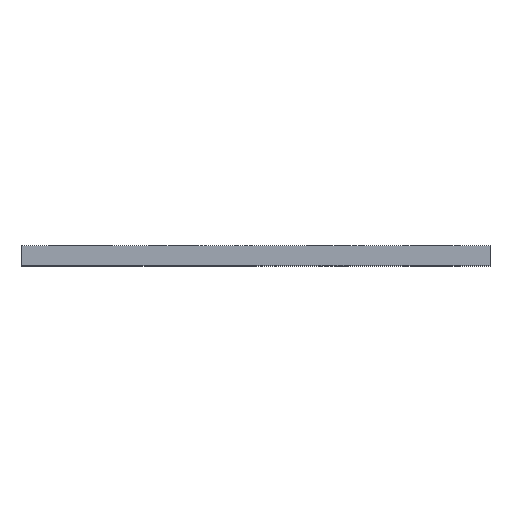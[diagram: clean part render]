
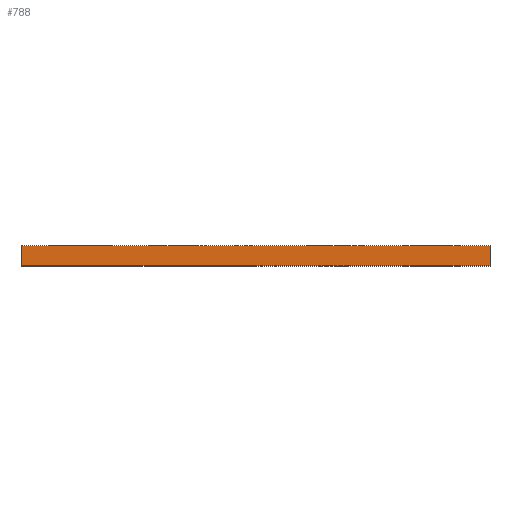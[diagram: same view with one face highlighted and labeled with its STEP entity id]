
A CAD part, top view. The second image highlights one B-rep face of the part: STEP entity #788.
In plain terms, the highlighted planar face has unit normal (0, 0, 1).
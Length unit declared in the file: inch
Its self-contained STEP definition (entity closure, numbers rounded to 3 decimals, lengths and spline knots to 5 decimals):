
#42=DIRECTION('',(-1.,0.,0.));
#43=VECTOR('',#42,3.);
#44=CARTESIAN_POINT('',(0.,0.,0.));
#45=LINE('',#44,#43);
#150=DIRECTION('',(0.,-1.,0.));
#151=VECTOR('',#150,0.125);
#152=CARTESIAN_POINT('',(0.,0.,0.));
#153=LINE('',#152,#151);
#162=DIRECTION('',(0.,-1.,0.));
#163=VECTOR('',#162,0.125);
#164=CARTESIAN_POINT('',(-3.,0.,0.));
#165=LINE('',#164,#163);
#166=DIRECTION('',(-1.,0.,0.));
#167=VECTOR('',#166,3.);
#168=CARTESIAN_POINT('',(0.,-0.125,0.));
#169=LINE('',#168,#167);
#538=CARTESIAN_POINT('',(0.,0.,0.));
#539=CARTESIAN_POINT('',(-3.,0.,0.));
#540=VERTEX_POINT('',#538);
#541=VERTEX_POINT('',#539);
#546=CARTESIAN_POINT('',(0.,-0.125,0.));
#547=CARTESIAN_POINT('',(-3.,-0.125,0.));
#548=VERTEX_POINT('',#546);
#549=VERTEX_POINT('',#547);
#774=CARTESIAN_POINT('',(0.,0.,0.));
#775=DIRECTION('',(0.,0.,1.));
#776=DIRECTION('',(-1.,0.,0.));
#777=AXIS2_PLACEMENT_3D('',#774,#775,#776);
#778=PLANE('',#777);
#779=ORIENTED_EDGE('',*,*,#687,.F.);
#781=ORIENTED_EDGE('',*,*,#780,.T.);
#783=ORIENTED_EDGE('',*,*,#782,.T.);
#785=ORIENTED_EDGE('',*,*,#784,.F.);
#786=EDGE_LOOP('',(#779,#781,#783,#785));
#787=FACE_OUTER_BOUND('',#786,.F.);
#788=ADVANCED_FACE('',(#787),#778,.T.);
#687=EDGE_CURVE('',#540,#541,#45,.T.);
#780=EDGE_CURVE('',#540,#548,#153,.T.);
#782=EDGE_CURVE('',#548,#549,#169,.T.);
#784=EDGE_CURVE('',#541,#549,#165,.T.);
